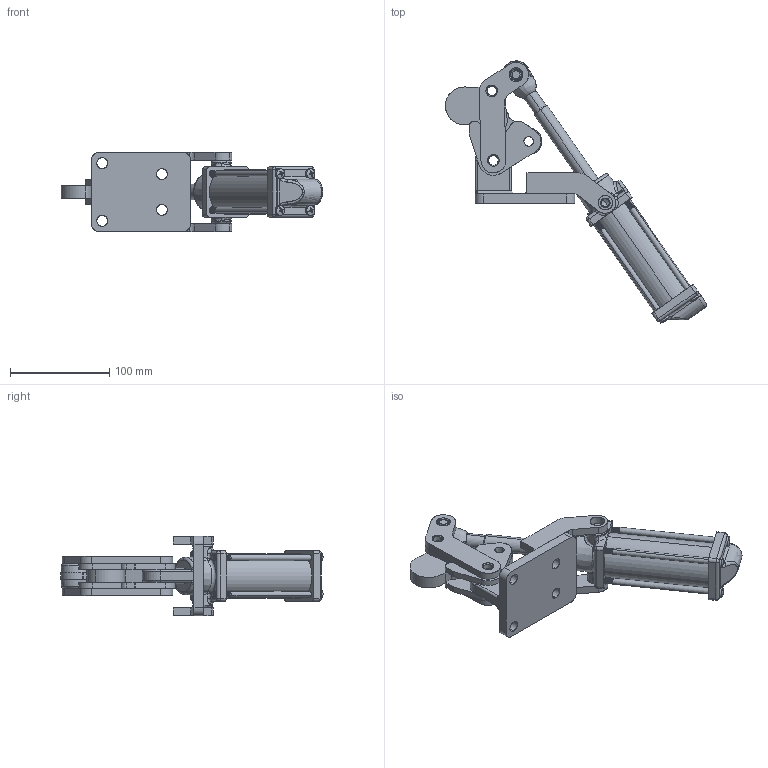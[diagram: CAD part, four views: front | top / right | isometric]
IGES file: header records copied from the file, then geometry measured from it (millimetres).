
Start section: SolidWorks IGES file using analytic representation for surfaces
Global section: file name: D:\GH Files\GH-SW-FILES\GH-A\702-DA\702DA\702DA.IGS; native system: SolidWorks 2006 by SolidWorks Corporation; preprocessor: SolidWorks 2006 by SolidWorks Corporation; author: Administrator; date: 060526.085636; units: millimetre
Bounding box: 263.07 x 263.79 x 80 mm (x, y, z)
Surface area: 170850.5 mm2 (no closed solid volume)
Topology: 0 solids, 0 shells, 1121 faces, 12320 edges, 12297 vertices
Faces by surface type: revolution 791, bspline 330
